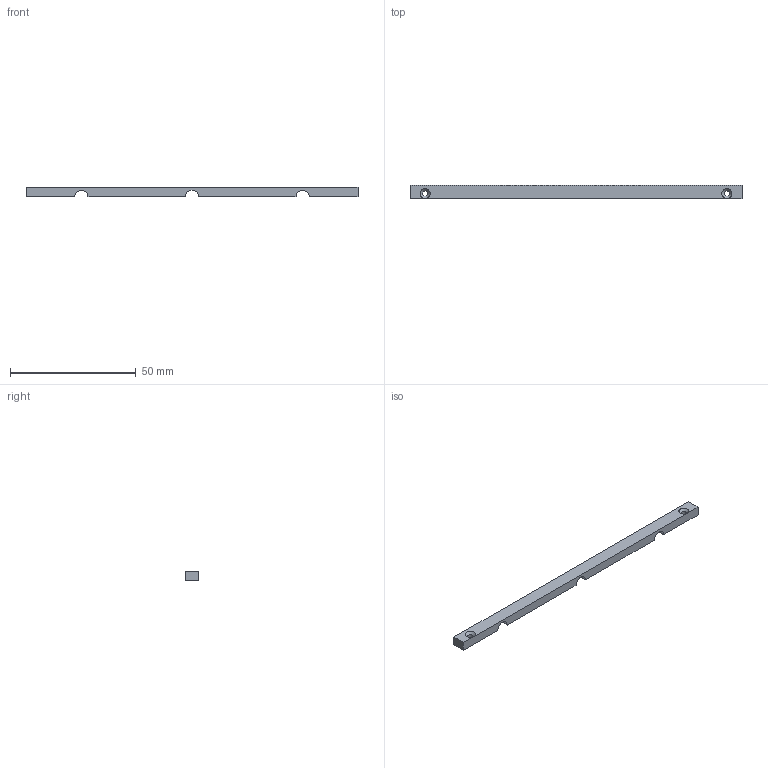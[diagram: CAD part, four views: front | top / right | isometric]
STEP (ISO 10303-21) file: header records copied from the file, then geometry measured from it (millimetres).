
FILE_DESCRIPTION(('Open CASCADE Model'),'2;1');
FILE_NAME('Open CASCADE Shape Model','2026-11-07T21:51:47',('Author'),( 'Open CASCADE'),'Open CASCADE STEP processor 7.9','Open CASCADE 7.9' ,'Unknown');
FILE_SCHEMA(('AUTOMOTIVE_DESIGN { 1 0 10303 214 1 1 1 1 }'));
Length unit declared in the file: millimetre
Products named in the file (1): Open CASCADE STEP translator 7.9 14
Bounding box: 132 x 5.3 x 3.8 mm (x, y, z)
Volume: 2437.7 mm3; surface area: 2479.4 mm2
Topology: 1 solids, 1 shells, 28 faces, 80 edges, 52 vertices
Faces by surface type: plane 15, cylinder 11, cone 2
Full cylindrical faces by diameter (mm): 2.2 x2
Entity records: 1966 total; most frequent: CARTESIAN_POINT 413, DIRECTION 274, ORIENTED_EDGE 160, PCURVE 160, DEFINITIONAL_REPRESENTATION 160, LINE 148, VECTOR 148, EDGE_CURVE 80
